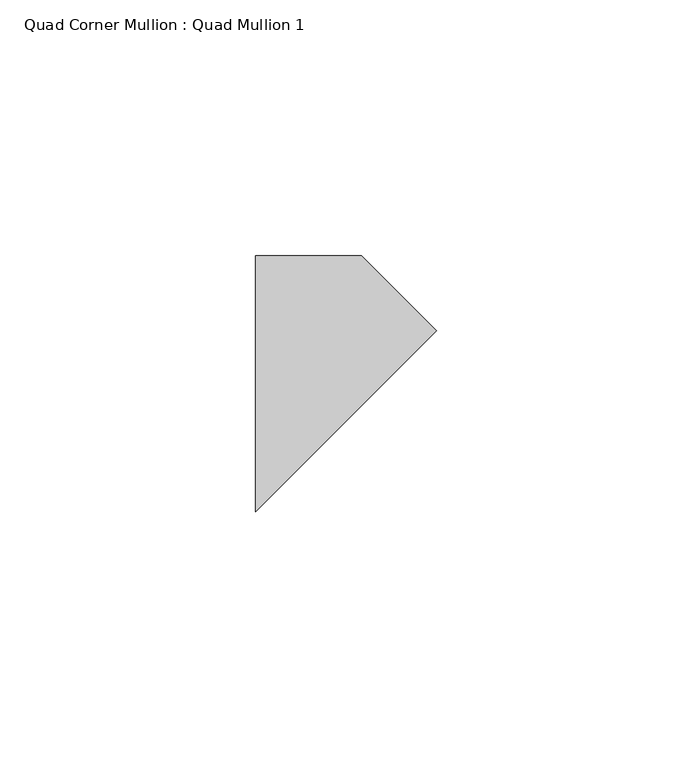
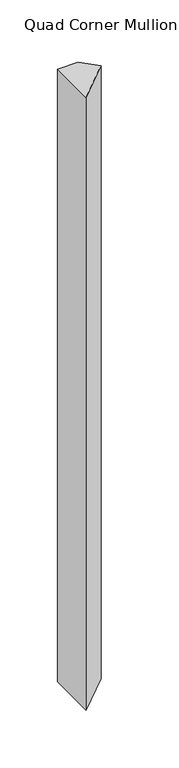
"""IFC4 building model written with IfcOpenShell, lengths in millimetres: member geometry, Quad Corner Mullion : Quad Mullion 1."""

from ifc_helpers import new_model, si_unit, frame, origin, place, context, project, spatial, polyline, outline, extrude, source, transform, mapped, element, save


def quad_corner_mullion_quad_mullion_1_8221f160(model_context):
    return source(origin(), model_context, "Body", "SweptSolid", [
        extrude(outline(polyline([(25.0, 10.3553391), (-10.3553391, -25.0), (-10.3553391, 25.0), (10.3553391, 25.0), (25.0, 10.3553391)])), frame((0.0, 0.0, -650.0), z_axis=(0.0, 0.0, 1.0), x_axis=(1.0, 0.0, 0.0)), (0.0, 0.0, 1.0), 650.0),
    ])


if __name__ == "__main__":
    model = new_model("IFC4")
    model_context = context("Model", 3, world=origin())
    ifc_project = project(units=[si_unit("LENGTHUNIT", "METRE", prefix="MILLI")], contexts=[model_context])
    site = spatial("IfcSite", under=ifc_project)
    building = spatial("IfcBuilding", under=site)
    placement = place(None, origin())
    quad_corner_mullion_quad_mullion_1_shape = quad_corner_mullion_quad_mullion_1_8221f160(model_context)
    element("IfcMember", 1, ObjectType="Quad Corner Mullion : Quad Mullion 1", at=placement, inside=building, context=model_context, shape_type="MappedRepresentation", body=[
        mapped(quad_corner_mullion_quad_mullion_1_shape, transform((0.0, 0.0, 0.0), x_axis=(1.0, 0.0, 0.0), y_axis=(0.0, 1.0, 0.0), z_axis=(0.0, 0.0, 1.0))),
    ])
    save(model, "model.ifc")
